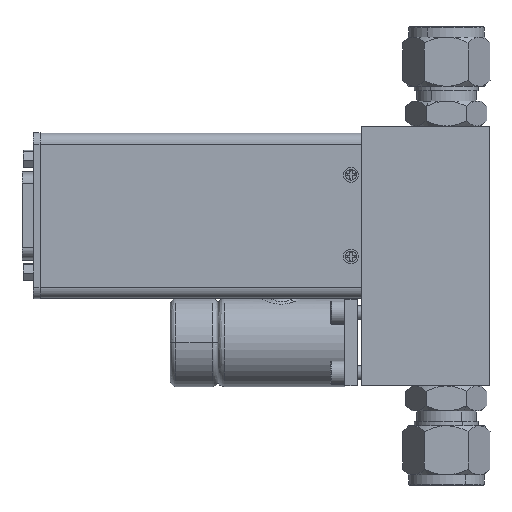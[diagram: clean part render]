
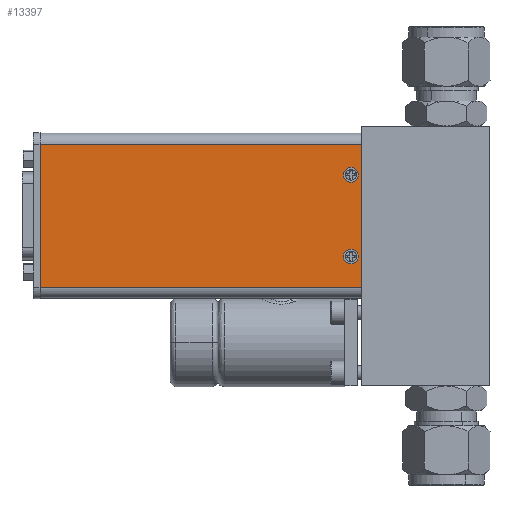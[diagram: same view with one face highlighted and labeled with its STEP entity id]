
A CAD part, left-side view. The second image highlights one B-rep face of the part: STEP entity #13397.
In plain terms, the highlighted planar face has unit normal (-1, 0, 0).
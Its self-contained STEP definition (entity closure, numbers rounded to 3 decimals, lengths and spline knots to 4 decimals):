
#2437 = DIRECTION ( 'NONE',  ( 1., 0., 0. ) ) ;
#2939 = VECTOR ( 'NONE', #30840, 39.3701 ) ;
#3502 = DIRECTION ( 'NONE',  ( 0., -1., 0. ) ) ;
#3664 = VERTEX_POINT ( 'NONE', #36182 ) ;
#3808 = CARTESIAN_POINT ( 'NONE',  ( -0.7345, 1.6032, 0.9394 ) ) ;
#4259 = EDGE_LOOP ( 'NONE', ( #6749, #19196 ) ) ;
#4540 = LINE ( 'NONE', #16803, #24656 ) ;
#4747 = EDGE_CURVE ( 'NONE', #28999, #18599, #4540, .T. ) ;
#5191 = ORIENTED_EDGE ( 'NONE', *, *, #13888, .F. ) ;
#5945 = LINE ( 'NONE', #9636, #15628 ) ;
#5999 = LINE ( 'NONE', #18677, #38015 ) ;
#6749 = ORIENTED_EDGE ( 'NONE', *, *, #31882, .T. ) ;
#7175 = CIRCLE ( 'NONE', #13043, 0.063 ) ;
#7411 = CIRCLE ( 'NONE', #25061, 0.063 ) ;
#7639 = CARTESIAN_POINT ( 'NONE',  ( -0.7345, 1.4851, 0.467 ) ) ;
#7776 = CARTESIAN_POINT ( 'NONE',  ( -0.7345, 1.5402, -0.0054 ) ) ;
#8119 = CIRCLE ( 'NONE', #12035, 0.063 ) ;
#9636 = CARTESIAN_POINT ( 'NONE',  ( -0.7345, 1.4851, 1.295 ) ) ;
#9685 = DIRECTION ( 'NONE',  ( 0., 0., -1. ) ) ;
#10437 = EDGE_CURVE ( 'NONE', #37567, #35295, #12945, .T. ) ;
#10754 = CARTESIAN_POINT ( 'NONE',  ( -0.7345, 1.4851, 1.295 ) ) ;
#12035 = AXIS2_PLACEMENT_3D ( 'NONE', #13919, #2437, #19845 ) ;
#12841 = ORIENTED_EDGE ( 'NONE', *, *, #4747, .F. ) ;
#12945 = CIRCLE ( 'NONE', #37073, 0.063 ) ;
#13043 = AXIS2_PLACEMENT_3D ( 'NONE', #16533, #28198, #28997 ) ;
#13397 = ADVANCED_FACE ( 'NONE', ( #38674, #29297, #20297 ), #26029, .T. ) ;
#13416 = ORIENTED_EDGE ( 'NONE', *, *, #24907, .F. ) ;
#13586 = DIRECTION ( 'NONE',  ( 1., 0., 0. ) ) ;
#13888 = EDGE_CURVE ( 'NONE', #18599, #32326, #5945, .T. ) ;
#13919 = CARTESIAN_POINT ( 'NONE',  ( -0.7345, 1.6032, -0.0054 ) ) ;
#15110 = CARTESIAN_POINT ( 'NONE',  ( -0.7345, 1.4851, -0.361 ) ) ;
#15628 = VECTOR ( 'NONE', #3502, 39.3701 ) ;
#16533 = CARTESIAN_POINT ( 'NONE',  ( -0.7345, 1.6032, 0.9394 ) ) ;
#16803 = CARTESIAN_POINT ( 'NONE',  ( -0.7345, 5.1996, 0.467 ) ) ;
#17379 = DIRECTION ( 'NONE',  ( 1., 0., 0. ) ) ;
#18387 = EDGE_LOOP ( 'NONE', ( #37232, #21108 ) ) ;
#18599 = VERTEX_POINT ( 'NONE', #25783 ) ;
#18677 = CARTESIAN_POINT ( 'NONE',  ( -0.7345, 1.4851, 0.467 ) ) ;
#19196 = ORIENTED_EDGE ( 'NONE', *, *, #10437, .T. ) ;
#19692 = DIRECTION ( 'NONE',  ( 0., 1., 0. ) ) ;
#19845 = DIRECTION ( 'NONE',  ( 0., -1., 0. ) ) ;
#20297 = FACE_BOUND ( 'NONE', #18387, .T. ) ;
#21108 = ORIENTED_EDGE ( 'NONE', *, *, #22341, .T. ) ;
#22341 = EDGE_CURVE ( 'NONE', #30968, #3664, #7175, .T. ) ;
#24656 = VECTOR ( 'NONE', #29068, 39.3701 ) ;
#24907 = EDGE_CURVE ( 'NONE', #32326, #38934, #5999, .T. ) ;
#25061 = AXIS2_PLACEMENT_3D ( 'NONE', #3808, #13586, #28720 ) ;
#25282 = CARTESIAN_POINT ( 'NONE',  ( -0.7345, 1.6662, 0.9394 ) ) ;
#25638 = DIRECTION ( 'NONE',  ( -1., 0., 0. ) ) ;
#25783 = CARTESIAN_POINT ( 'NONE',  ( -0.7345, 5.1996, 1.295 ) ) ;
#26029 = PLANE ( 'NONE',  #27990 ) ;
#27171 = LINE ( 'NONE', #15110, #2939 ) ;
#27990 = AXIS2_PLACEMENT_3D ( 'NONE', #7639, #25638, #19692 ) ;
#28198 = DIRECTION ( 'NONE',  ( 1., 0., 0. ) ) ;
#28720 = DIRECTION ( 'NONE',  ( 0., -1., 0. ) ) ;
#28997 = DIRECTION ( 'NONE',  ( 0., -1., 0. ) ) ;
#28999 = VERTEX_POINT ( 'NONE', #31054 ) ;
#29068 = DIRECTION ( 'NONE',  ( 0., 0., 1. ) ) ;
#29297 = FACE_BOUND ( 'NONE', #4259, .T. ) ;
#29570 = EDGE_CURVE ( 'NONE', #3664, #30968, #7411, .T. ) ;
#29640 = DIRECTION ( 'NONE',  ( 0., -1., 0. ) ) ;
#30840 = DIRECTION ( 'NONE',  ( 0., 1., 0. ) ) ;
#30968 = VERTEX_POINT ( 'NONE', #25282 ) ;
#31054 = CARTESIAN_POINT ( 'NONE',  ( -0.7345, 5.1996, -0.361 ) ) ;
#31882 = EDGE_CURVE ( 'NONE', #35295, #37567, #8119, .T. ) ;
#32326 = VERTEX_POINT ( 'NONE', #10754 ) ;
#32487 = CARTESIAN_POINT ( 'NONE',  ( -0.7345, 1.6032, -0.0054 ) ) ;
#32676 = CARTESIAN_POINT ( 'NONE',  ( -0.7345, 1.4851, -0.361 ) ) ;
#33744 = CARTESIAN_POINT ( 'NONE',  ( -0.7345, 1.6662, -0.0054 ) ) ;
#35295 = VERTEX_POINT ( 'NONE', #7776 ) ;
#36182 = CARTESIAN_POINT ( 'NONE',  ( -0.7345, 1.5402, 0.9394 ) ) ;
#37073 = AXIS2_PLACEMENT_3D ( 'NONE', #32487, #17379, #29640 ) ;
#37232 = ORIENTED_EDGE ( 'NONE', *, *, #29570, .T. ) ;
#37567 = VERTEX_POINT ( 'NONE', #33744 ) ;
#38015 = VECTOR ( 'NONE', #9685, 39.3701 ) ;
#38674 = FACE_OUTER_BOUND ( 'NONE', #39259, .T. ) ;
#38934 = VERTEX_POINT ( 'NONE', #32676 ) ;
#38974 = EDGE_CURVE ( 'NONE', #38934, #28999, #27171, .T. ) ;
#39023 = ORIENTED_EDGE ( 'NONE', *, *, #38974, .F. ) ;
#39259 = EDGE_LOOP ( 'NONE', ( #12841, #39023, #13416, #5191 ) ) ;
